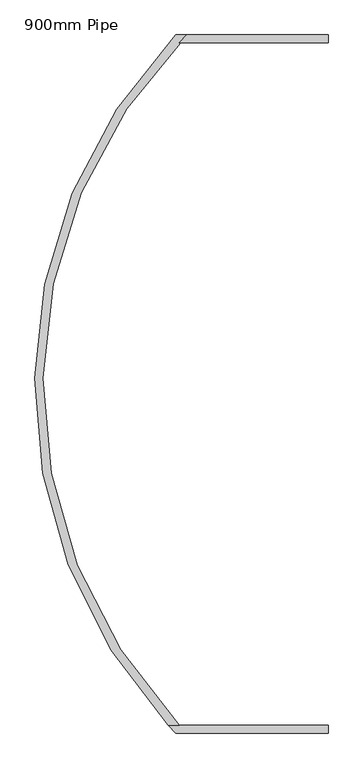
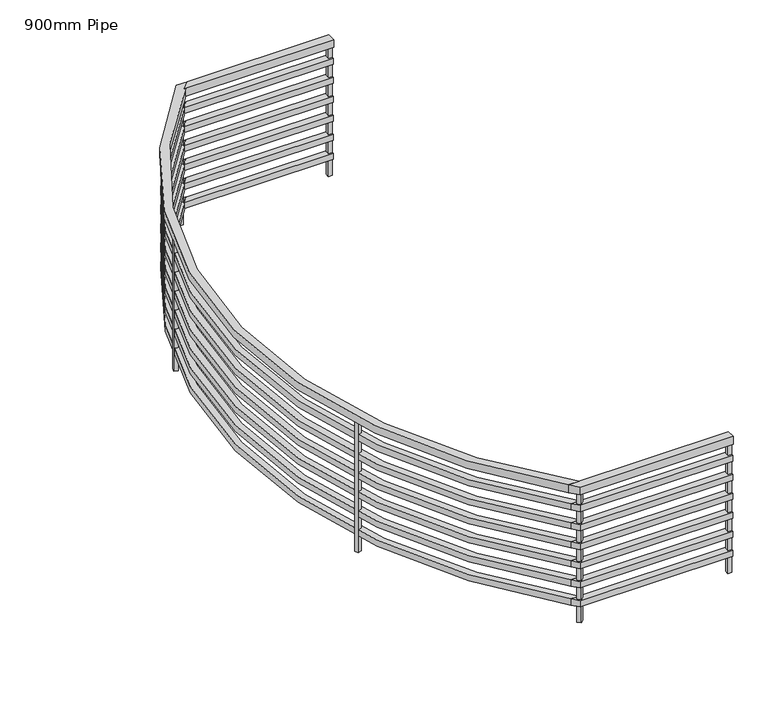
"""IFC4 building model written with IfcOpenShell, lengths in millimetres: railing geometry, 900mm Pipe."""

from ifc_helpers import new_model, si_unit, point, frame, frame_2d, origin, place, context, project, spatial, polyline, circle_curve, trimmed, segment, composite_curve, outline, extrude, source, transform, mapped, element, save


def railing_900mm_pipe_d0f322aa(model_context):
    return source(origin(), model_context, "Body", "SweptSolid", [
        extrude(outline(polyline([(-12637.1962165, 6517.6290541), (-12637.1962165, 6467.6290541), (-13564.2740518, 6467.6290541), (-13516.3474018, 6517.6290541), (-12637.1962165, 6517.6290541)])), frame((0.0, 0.0, 3700.0), z_axis=(0.0, 0.0, 1.0), x_axis=(1.0, 0.0, 0.0)), (0.0, 0.0, 1.0), 50.0),
        extrude(outline(composite_curve([segment(trimmed(circle_curve(frame_2d((-11331.9298488, 4342.6290541)), 3132.0239878), [point((-13632.7882234, 2217.6290541))], [point((-13585.5822754, 6517.6290541))], False, "CARTESIAN"), True, "CONTINUOUS"), segment(polyline([(-13585.5822754, 6517.6290541), (-13515.5614252, 6517.6290541)]), True, "CONTINUOUS"), segment(trimmed(circle_curve(frame_2d((-11331.9298488, 4342.6290541)), 3082.0239878), [point((-13515.5614252, 6517.6290541))], [point((-13564.2485674, 2217.6290541))], True, "CARTESIAN"), True, "CONTINUOUS"), segment(polyline([(-13564.2485674, 2217.6290541), (-13632.7882234, 2217.6290541)]), True, "CONTINUOUS")], self_intersect=False)), frame((0.0, 0.0, 3700.0), z_axis=(0.0, 0.0, 1.0), x_axis=(1.0, 0.0, 0.0)), (0.0, 0.0, 1.0), 50.0),
        extrude(outline(polyline([(-13586.0334787, 2167.6290541), (-13632.9075879, 2217.6290541), (-12637.1962165, 2217.6290541), (-12637.1962165, 2167.6290541), (-13586.0334787, 2167.6290541)])), frame((0.0, 0.0, 3700.0), z_axis=(0.0, 0.0, 1.0), x_axis=(1.0, 0.0, 0.0)), (0.0, 0.0, 1.0), 50.0),
        extrude(outline(polyline([(-12637.1962165, 6512.6290541), (-12637.1962165, 6472.6290541), (-13566.4073985, 6472.6290541), (-13528.0660785, 6512.6290541), (-12637.1962165, 6512.6290541)])), frame((0.0, 0.0, 3585.0), z_axis=(0.0, 0.0, 1.0), x_axis=(1.0, 0.0, 0.0)), (0.0, 0.0, 1.0), 40.0),
        extrude(outline(composite_curve([segment(trimmed(circle_curve(frame_2d((-11331.9298488, 4342.6290541)), 3127.0239878), [point((-13621.3356713, 2212.6290541))], [point((-13583.458001, 6512.6290541))], False, "CARTESIAN"), True, "CONTINUOUS"), segment(polyline([(-13583.458001, 6512.6290541), (-13527.5657706, 6512.6290541)]), True, "CONTINUOUS"), segment(trimmed(circle_curve(frame_2d((-11331.9298488, 4342.6290541)), 3087.0239878), [point((-13527.5657706, 6512.6290541))], [point((-13566.391104, 2212.6290541))], True, "CARTESIAN"), True, "CONTINUOUS"), segment(polyline([(-13566.391104, 2212.6290541), (-13621.3356713, 2212.6290541)]), True, "CONTINUOUS")], self_intersect=False)), frame((0.0, 0.0, 3585.0), z_axis=(0.0, 0.0, 1.0), x_axis=(1.0, 0.0, 0.0)), (0.0, 0.0, 1.0), 40.0),
        extrude(outline(polyline([(-13583.7475464, 2172.6290541), (-13621.4131299, 2212.6290541), (-12637.1962165, 2212.6290541), (-12637.1962165, 2172.6290541), (-13583.7475464, 2172.6290541)])), frame((0.0, 0.0, 3585.0), z_axis=(0.0, 0.0, 1.0), x_axis=(1.0, 0.0, 0.0)), (0.0, 0.0, 1.0), 40.0),
        extrude(outline(polyline([(-12637.1962165, 6512.6290541), (-12637.1962165, 6472.6290541), (-13566.4073985, 6472.6290541), (-13528.0660785, 6512.6290541), (-12637.1962165, 6512.6290541)])), frame((0.0, 0.0, 3460.0), z_axis=(0.0, 0.0, 1.0), x_axis=(1.0, 0.0, 0.0)), (0.0, 0.0, 1.0), 40.0),
        extrude(outline(composite_curve([segment(trimmed(circle_curve(frame_2d((-11331.9298488, 4342.6290541)), 3127.0239878), [point((-13621.3356713, 2212.6290541))], [point((-13583.458001, 6512.6290541))], False, "CARTESIAN"), True, "CONTINUOUS"), segment(polyline([(-13583.458001, 6512.6290541), (-13527.5657706, 6512.6290541)]), True, "CONTINUOUS"), segment(trimmed(circle_curve(frame_2d((-11331.9298488, 4342.6290541)), 3087.0239878), [point((-13527.5657706, 6512.6290541))], [point((-13566.391104, 2212.6290541))], True, "CARTESIAN"), True, "CONTINUOUS"), segment(polyline([(-13566.391104, 2212.6290541), (-13621.3356713, 2212.6290541)]), True, "CONTINUOUS")], self_intersect=False)), frame((0.0, 0.0, 3460.0), z_axis=(0.0, 0.0, 1.0), x_axis=(1.0, 0.0, 0.0)), (0.0, 0.0, 1.0), 40.0),
        extrude(outline(polyline([(-13583.7475464, 2172.6290541), (-13621.4131299, 2212.6290541), (-12637.1962165, 2212.6290541), (-12637.1962165, 2172.6290541), (-13583.7475464, 2172.6290541)])), frame((0.0, 0.0, 3460.0), z_axis=(0.0, 0.0, 1.0), x_axis=(1.0, 0.0, 0.0)), (0.0, 0.0, 1.0), 40.0),
        extrude(outline(polyline([(-12637.1962165, 6512.6290541), (-12637.1962165, 6472.6290541), (-13566.4073985, 6472.6290541), (-13528.0660785, 6512.6290541), (-12637.1962165, 6512.6290541)])), frame((0.0, 0.0, 3335.0), z_axis=(0.0, 0.0, 1.0), x_axis=(1.0, 0.0, 0.0)), (0.0, 0.0, 1.0), 40.0),
        extrude(outline(composite_curve([segment(trimmed(circle_curve(frame_2d((-11331.9298488, 4342.6290541)), 3127.0239878), [point((-13621.3356713, 2212.6290541))], [point((-13583.458001, 6512.6290541))], False, "CARTESIAN"), True, "CONTINUOUS"), segment(polyline([(-13583.458001, 6512.6290541), (-13527.5657706, 6512.6290541)]), True, "CONTINUOUS"), segment(trimmed(circle_curve(frame_2d((-11331.9298488, 4342.6290541)), 3087.0239878), [point((-13527.5657706, 6512.6290541))], [point((-13566.391104, 2212.6290541))], True, "CARTESIAN"), True, "CONTINUOUS"), segment(polyline([(-13566.391104, 2212.6290541), (-13621.3356713, 2212.6290541)]), True, "CONTINUOUS")], self_intersect=False)), frame((0.0, 0.0, 3335.0), z_axis=(0.0, 0.0, 1.0), x_axis=(1.0, 0.0, 0.0)), (0.0, 0.0, 1.0), 40.0),
        extrude(outline(polyline([(-13583.7475464, 2172.6290541), (-13621.4131299, 2212.6290541), (-12637.1962165, 2212.6290541), (-12637.1962165, 2172.6290541), (-13583.7475464, 2172.6290541)])), frame((0.0, 0.0, 3335.0), z_axis=(0.0, 0.0, 1.0), x_axis=(1.0, 0.0, 0.0)), (0.0, 0.0, 1.0), 40.0),
        extrude(outline(polyline([(-12637.1962165, 6512.6290541), (-12637.1962165, 6472.6290541), (-13566.4073985, 6472.6290541), (-13528.0660785, 6512.6290541), (-12637.1962165, 6512.6290541)])), frame((0.0, 0.0, 3210.0), z_axis=(0.0, 0.0, 1.0), x_axis=(1.0, 0.0, 0.0)), (0.0, 0.0, 1.0), 40.0),
        extrude(outline(composite_curve([segment(trimmed(circle_curve(frame_2d((-11331.9298488, 4342.6290541)), 3127.0239878), [point((-13621.3356713, 2212.6290541))], [point((-13583.458001, 6512.6290541))], False, "CARTESIAN"), True, "CONTINUOUS"), segment(polyline([(-13583.458001, 6512.6290541), (-13527.5657706, 6512.6290541)]), True, "CONTINUOUS"), segment(trimmed(circle_curve(frame_2d((-11331.9298488, 4342.6290541)), 3087.0239878), [point((-13527.5657706, 6512.6290541))], [point((-13566.391104, 2212.6290541))], True, "CARTESIAN"), True, "CONTINUOUS"), segment(polyline([(-13566.391104, 2212.6290541), (-13621.3356713, 2212.6290541)]), True, "CONTINUOUS")], self_intersect=False)), frame((0.0, 0.0, 3210.0), z_axis=(0.0, 0.0, 1.0), x_axis=(1.0, 0.0, 0.0)), (0.0, 0.0, 1.0), 40.0),
        extrude(outline(polyline([(-13583.7475464, 2172.6290541), (-13621.4131299, 2212.6290541), (-12637.1962165, 2212.6290541), (-12637.1962165, 2172.6290541), (-13583.7475464, 2172.6290541)])), frame((0.0, 0.0, 3210.0), z_axis=(0.0, 0.0, 1.0), x_axis=(1.0, 0.0, 0.0)), (0.0, 0.0, 1.0), 40.0),
        extrude(outline(polyline([(-12637.1962165, 6512.6290541), (-12637.1962165, 6472.6290541), (-13566.4073985, 6472.6290541), (-13528.0660785, 6512.6290541), (-12637.1962165, 6512.6290541)])), frame((0.0, 0.0, 3085.0), z_axis=(0.0, 0.0, 1.0), x_axis=(1.0, 0.0, 0.0)), (0.0, 0.0, 1.0), 40.0),
        extrude(outline(composite_curve([segment(trimmed(circle_curve(frame_2d((-11331.9298488, 4342.6290541)), 3127.0239878), [point((-13621.3356713, 2212.6290541))], [point((-13583.458001, 6512.6290541))], False, "CARTESIAN"), True, "CONTINUOUS"), segment(polyline([(-13583.458001, 6512.6290541), (-13527.5657706, 6512.6290541)]), True, "CONTINUOUS"), segment(trimmed(circle_curve(frame_2d((-11331.9298488, 4342.6290541)), 3087.0239878), [point((-13527.5657706, 6512.6290541))], [point((-13566.391104, 2212.6290541))], True, "CARTESIAN"), True, "CONTINUOUS"), segment(polyline([(-13566.391104, 2212.6290541), (-13621.3356713, 2212.6290541)]), True, "CONTINUOUS")], self_intersect=False)), frame((0.0, 0.0, 3085.0), z_axis=(0.0, 0.0, 1.0), x_axis=(1.0, 0.0, 0.0)), (0.0, 0.0, 1.0), 40.0),
        extrude(outline(polyline([(-13583.7475464, 2172.6290541), (-13621.4131299, 2212.6290541), (-12637.1962165, 2212.6290541), (-12637.1962165, 2172.6290541), (-13583.7475464, 2172.6290541)])), frame((0.0, 0.0, 3085.0), z_axis=(0.0, 0.0, 1.0), x_axis=(1.0, 0.0, 0.0)), (0.0, 0.0, 1.0), 40.0),
        extrude(outline(polyline([(-12637.1962165, 6512.6290541), (-12637.1962165, 6472.6290541), (-13566.4073985, 6472.6290541), (-13528.0660785, 6512.6290541), (-12637.1962165, 6512.6290541)])), frame((0.0, 0.0, 2960.0), z_axis=(0.0, 0.0, 1.0), x_axis=(1.0, 0.0, 0.0)), (0.0, 0.0, 1.0), 40.0),
        extrude(outline(composite_curve([segment(trimmed(circle_curve(frame_2d((-11331.9298488, 4342.6290541)), 3127.0239878), [point((-13621.3356713, 2212.6290541))], [point((-13583.458001, 6512.6290541))], False, "CARTESIAN"), True, "CONTINUOUS"), segment(polyline([(-13583.458001, 6512.6290541), (-13527.5657706, 6512.6290541)]), True, "CONTINUOUS"), segment(trimmed(circle_curve(frame_2d((-11331.9298488, 4342.6290541)), 3087.0239878), [point((-13527.5657706, 6512.6290541))], [point((-13566.391104, 2212.6290541))], True, "CARTESIAN"), True, "CONTINUOUS"), segment(polyline([(-13566.391104, 2212.6290541), (-13621.3356713, 2212.6290541)]), True, "CONTINUOUS")], self_intersect=False)), frame((0.0, 0.0, 2960.0), z_axis=(0.0, 0.0, 1.0), x_axis=(1.0, 0.0, 0.0)), (0.0, 0.0, 1.0), 40.0),
        extrude(outline(polyline([(-13583.7475464, 2172.6290541), (-13621.4131299, 2212.6290541), (-12637.1962165, 2212.6290541), (-12637.1962165, 2172.6290541), (-13583.7475464, 2172.6290541)])), frame((0.0, 0.0, 2960.0), z_axis=(0.0, 0.0, 1.0), x_axis=(1.0, 0.0, 0.0)), (0.0, 0.0, 1.0), 40.0),
        extrude(outline(polyline([(-14295.224706, 3367.7086728), (-14271.5084208, 3375.6167585), (-14263.6003351, 3351.9004734), (-14287.3166202, 3343.9923876), (-14295.224706, 3367.7086728)])), frame((0.0, 0.0, 2850.0), z_axis=(0.0, 0.0, 1.0), x_axis=(1.0, 0.0, 0.0)), (0.0, 0.0, 1.0), 850.0),
        extrude(outline(polyline([(-14287.3166202, 5341.2657205), (-14263.6003351, 5333.3576348), (-14271.5084208, 5309.6413497), (-14295.224706, 5317.5494354), (-14287.3166202, 5341.2657205)])), frame((0.0, 0.0, 2850.0), z_axis=(0.0, 0.0, 1.0), x_axis=(1.0, 0.0, 0.0)), (0.0, 0.0, 1.0), 850.0),
        extrude(outline(polyline([(-13592.6144938, 2193.0032503), (-13574.5665889, 2210.3027627), (-13557.2670765, 2192.2548578), (-13575.3149814, 2174.9553454), (-13592.6144938, 2193.0032503)])), frame((0.0, 0.0, 2850.0), z_axis=(0.0, 0.0, 1.0), x_axis=(1.0, 0.0, 0.0)), (0.0, 0.0, 1.0), 850.0),
        extrude(outline(polyline([(-13562.4407852, 6505.1290541), (-13562.4407852, 6480.1290541), (-13587.4407852, 6480.1290541), (-13587.4407852, 6505.1290541), (-13562.4407852, 6505.1290541)])), frame((0.0, 0.0, 2850.0), z_axis=(0.0, 0.0, 1.0), x_axis=(1.0, 0.0, 0.0)), (0.0, 0.0, 1.0), 850.0),
        extrude(outline(polyline([(-12662.1962165, 2180.1290541), (-12662.1962165, 2205.1290541), (-12637.1962165, 2205.1290541), (-12637.1962165, 2180.1290541), (-12662.1962165, 2180.1290541)])), frame((0.0, 0.0, 2850.0), z_axis=(0.0, 0.0, 1.0), x_axis=(1.0, 0.0, 0.0)), (0.0, 0.0, 1.0), 850.0),
        extrude(outline(polyline([(-12637.1962165, 6505.1290541), (-12637.1962165, 6480.1290541), (-12662.1962165, 6480.1290541), (-12662.1962165, 6505.1290541), (-12637.1962165, 6505.1290541)])), frame((0.0, 0.0, 2850.0), z_axis=(0.0, 0.0, 1.0), x_axis=(1.0, 0.0, 0.0)), (0.0, 0.0, 1.0), 850.0),
    ])


if __name__ == "__main__":
    model = new_model("IFC4")
    model_context = context("Model", 3, world=origin())
    ifc_project = project(units=[si_unit("LENGTHUNIT", "METRE", prefix="MILLI")], contexts=[model_context])
    site = spatial("IfcSite", under=ifc_project)
    building = spatial("IfcBuilding", under=site)
    placement = place(None, origin())
    railing_900mm_pipe_shape = railing_900mm_pipe_d0f322aa(model_context)
    element("IfcRailing", 1, ObjectType="900mm Pipe", at=placement, inside=building, context=model_context, shape_type="MappedRepresentation", body=[
        mapped(railing_900mm_pipe_shape, transform((0.0, 0.0, 0.0), x_axis=(1.0, 0.0, 0.0), y_axis=(0.0, 1.0, 0.0), z_axis=(0.0, 0.0, 1.0))),
    ])
    save(model, "model.ifc")
